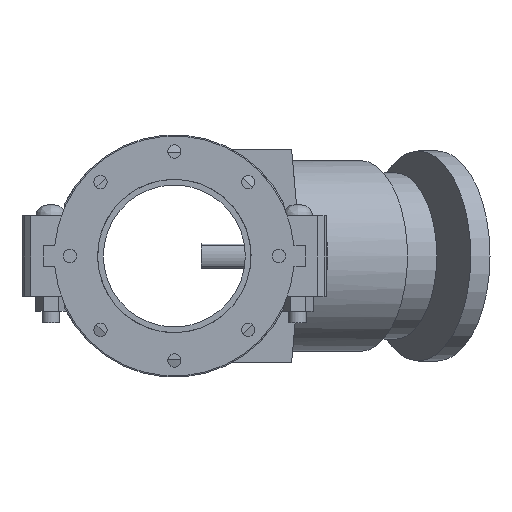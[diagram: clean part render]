
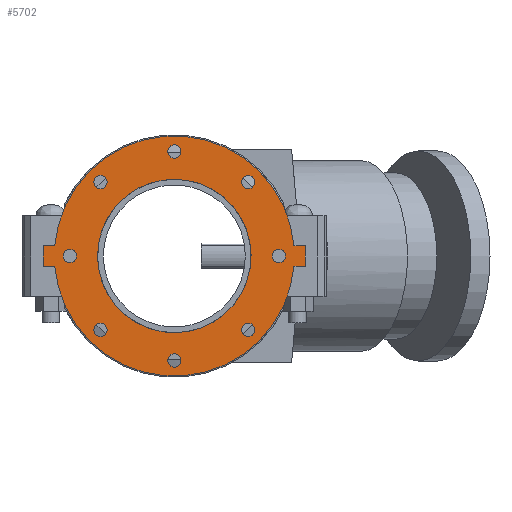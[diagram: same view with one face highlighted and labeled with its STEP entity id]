
A CAD part, front view. The second image highlights one B-rep face of the part: STEP entity #5702.
In plain terms, the highlighted planar face has unit normal (0, -1, 0) as drawn and (0, 0, 1) by its records, which use the part's own axes.
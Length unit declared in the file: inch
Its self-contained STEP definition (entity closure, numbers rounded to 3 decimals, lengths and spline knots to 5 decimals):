
#154=FACE_BOUND('',#757,.T.);
#155=FACE_BOUND('',#758,.T.);
#156=FACE_BOUND('',#759,.T.);
#157=FACE_BOUND('',#760,.T.);
#158=FACE_BOUND('',#761,.T.);
#159=FACE_BOUND('',#762,.T.);
#160=FACE_BOUND('',#763,.T.);
#161=FACE_BOUND('',#764,.T.);
#162=FACE_BOUND('',#765,.T.);
#232=PLANE('',#6251);
#431=FACE_OUTER_BOUND('',#756,.T.);
#756=EDGE_LOOP('',(#3737,#3738,#3739,#3740,#3741,#3742,#3743,#3744));
#757=EDGE_LOOP('',(#3745));
#758=EDGE_LOOP('',(#3746));
#759=EDGE_LOOP('',(#3747));
#760=EDGE_LOOP('',(#3748));
#761=EDGE_LOOP('',(#3749));
#762=EDGE_LOOP('',(#3750));
#763=EDGE_LOOP('',(#3751));
#764=EDGE_LOOP('',(#3752));
#765=EDGE_LOOP('',(#3753,#3754));
#1145=LINE('',#8778,#1560);
#1146=LINE('',#8781,#1561);
#1149=LINE('',#8786,#1564);
#1150=LINE('',#8789,#1565);
#1152=LINE('',#8792,#1567);
#1153=LINE('',#8794,#1568);
#1560=VECTOR('',#6993,0.3937);
#1561=VECTOR('',#6996,0.3937);
#1564=VECTOR('',#7001,0.3937);
#1565=VECTOR('',#7004,0.3937);
#1567=VECTOR('',#7008,0.3937);
#1568=VECTOR('',#7011,0.3937);
#1955=CIRCLE('',#6210,0.375);
#1957=CIRCLE('',#6213,0.375);
#1959=CIRCLE('',#6216,0.375);
#1961=CIRCLE('',#6219,0.375);
#1963=CIRCLE('',#6222,0.375);
#1965=CIRCLE('',#6225,0.375);
#1967=CIRCLE('',#6228,0.375);
#1969=CIRCLE('',#6231,0.375);
#1975=CIRCLE('',#6239,6.75);
#1976=CIRCLE('',#6241,4.3125);
#1977=CIRCLE('',#6242,4.3125);
#1978=CIRCLE('',#6244,6.75);
#2295=VERTEX_POINT('',#8689);
#2297=VERTEX_POINT('',#8695);
#2299=VERTEX_POINT('',#8701);
#2301=VERTEX_POINT('',#8707);
#2303=VERTEX_POINT('',#8713);
#2305=VERTEX_POINT('',#8719);
#2307=VERTEX_POINT('',#8725);
#2309=VERTEX_POINT('',#8731);
#2321=VERTEX_POINT('',#8758);
#2322=VERTEX_POINT('',#8760);
#2323=VERTEX_POINT('',#8764);
#2324=VERTEX_POINT('',#8766);
#2325=VERTEX_POINT('',#8770);
#2326=VERTEX_POINT('',#8772);
#2327=VERTEX_POINT('',#8776);
#2328=VERTEX_POINT('',#8780);
#2329=VERTEX_POINT('',#8784);
#2330=VERTEX_POINT('',#8788);
#2847=EDGE_CURVE('',#2295,#2295,#1955,.T.);
#2850=EDGE_CURVE('',#2297,#2297,#1957,.T.);
#2853=EDGE_CURVE('',#2299,#2299,#1959,.T.);
#2856=EDGE_CURVE('',#2301,#2301,#1961,.T.);
#2859=EDGE_CURVE('',#2303,#2303,#1963,.T.);
#2862=EDGE_CURVE('',#2305,#2305,#1965,.T.);
#2865=EDGE_CURVE('',#2307,#2307,#1967,.T.);
#2868=EDGE_CURVE('',#2309,#2309,#1969,.T.);
#2883=EDGE_CURVE('',#2321,#2322,#1975,.T.);
#2885=EDGE_CURVE('',#2324,#2323,#1976,.T.);
#2886=EDGE_CURVE('',#2323,#2324,#1977,.T.);
#2888=EDGE_CURVE('',#2326,#2325,#1978,.T.);
#2891=EDGE_CURVE('',#2322,#2327,#1145,.T.);
#2892=EDGE_CURVE('',#2328,#2326,#1146,.T.);
#2895=EDGE_CURVE('',#2325,#2329,#1149,.T.);
#2896=EDGE_CURVE('',#2330,#2321,#1150,.T.);
#2898=EDGE_CURVE('',#2329,#2330,#1152,.T.);
#2899=EDGE_CURVE('',#2327,#2328,#1153,.T.);
#3737=ORIENTED_EDGE('',*,*,#2895,.T.);
#3738=ORIENTED_EDGE('',*,*,#2898,.T.);
#3739=ORIENTED_EDGE('',*,*,#2896,.T.);
#3740=ORIENTED_EDGE('',*,*,#2883,.T.);
#3741=ORIENTED_EDGE('',*,*,#2891,.T.);
#3742=ORIENTED_EDGE('',*,*,#2899,.T.);
#3743=ORIENTED_EDGE('',*,*,#2892,.T.);
#3744=ORIENTED_EDGE('',*,*,#2888,.T.);
#3745=ORIENTED_EDGE('',*,*,#2847,.T.);
#3746=ORIENTED_EDGE('',*,*,#2850,.T.);
#3747=ORIENTED_EDGE('',*,*,#2853,.T.);
#3748=ORIENTED_EDGE('',*,*,#2856,.T.);
#3749=ORIENTED_EDGE('',*,*,#2859,.T.);
#3750=ORIENTED_EDGE('',*,*,#2862,.T.);
#3751=ORIENTED_EDGE('',*,*,#2865,.T.);
#3752=ORIENTED_EDGE('',*,*,#2868,.T.);
#3753=ORIENTED_EDGE('',*,*,#2885,.T.);
#3754=ORIENTED_EDGE('',*,*,#2886,.T.);
#5702=ADVANCED_FACE('',(#431,#154,#155,#156,#157,#158,#159,#160,#161,#162),
#232,.T.);
#6210=AXIS2_PLACEMENT_3D('',#8690,#6901,#6902);
#6213=AXIS2_PLACEMENT_3D('',#8696,#6908,#6909);
#6216=AXIS2_PLACEMENT_3D('',#8702,#6915,#6916);
#6219=AXIS2_PLACEMENT_3D('',#8708,#6922,#6923);
#6222=AXIS2_PLACEMENT_3D('',#8714,#6929,#6930);
#6225=AXIS2_PLACEMENT_3D('',#8720,#6936,#6937);
#6228=AXIS2_PLACEMENT_3D('',#8726,#6943,#6944);
#6231=AXIS2_PLACEMENT_3D('',#8732,#6950,#6951);
#6239=AXIS2_PLACEMENT_3D('',#8762,#6975,#6976);
#6241=AXIS2_PLACEMENT_3D('',#8767,#6980,#6981);
#6242=AXIS2_PLACEMENT_3D('',#8768,#6982,#6983);
#6244=AXIS2_PLACEMENT_3D('',#8773,#6987,#6988);
#6251=AXIS2_PLACEMENT_3D('',#8795,#7012,#7013);
#6901=DIRECTION('center_axis',(0.,0.,-1.));
#6902=DIRECTION('ref_axis',(-0.707,0.707,0.));
#6908=DIRECTION('center_axis',(0.,0.,-1.));
#6909=DIRECTION('ref_axis',(0.,1.,0.));
#6915=DIRECTION('center_axis',(0.,0.,-1.));
#6916=DIRECTION('ref_axis',(0.707,0.707,0.));
#6922=DIRECTION('center_axis',(0.,0.,-1.));
#6923=DIRECTION('ref_axis',(1.,0.,0.));
#6929=DIRECTION('center_axis',(0.,0.,-1.));
#6930=DIRECTION('ref_axis',(0.707,-0.707,0.));
#6936=DIRECTION('center_axis',(0.,0.,-1.));
#6937=DIRECTION('ref_axis',(0.,-1.,0.));
#6943=DIRECTION('center_axis',(0.,0.,-1.));
#6944=DIRECTION('ref_axis',(-0.707,-0.707,0.));
#6950=DIRECTION('center_axis',(0.,0.,-1.));
#6951=DIRECTION('ref_axis',(-1.,0.,0.));
#6975=DIRECTION('center_axis',(0.,0.,1.));
#6976=DIRECTION('ref_axis',(-1.,0.,0.));
#6980=DIRECTION('center_axis',(0.,0.,-1.));
#6981=DIRECTION('ref_axis',(-1.,0.,0.));
#6982=DIRECTION('center_axis',(0.,0.,-1.));
#6983=DIRECTION('ref_axis',(-1.,0.,0.));
#6987=DIRECTION('center_axis',(0.,0.,1.));
#6988=DIRECTION('ref_axis',(-1.,0.,0.));
#6993=DIRECTION('',(0.,1.,0.));
#6996=DIRECTION('',(0.,-1.,0.));
#7001=DIRECTION('',(0.,-1.,0.));
#7004=DIRECTION('',(0.,1.,0.));
#7008=DIRECTION('',(1.,0.,0.));
#7011=DIRECTION('',(-1.,0.,0.));
#7012=DIRECTION('center_axis',(0.,0.,1.));
#7013=DIRECTION('ref_axis',(1.,0.,0.));
#8689=CARTESIAN_POINT('',(-3.88909,3.88909,0.565));
#8690=CARTESIAN_POINT('Origin',(-4.15425,4.15425,0.565));
#8695=CARTESIAN_POINT('',(0.,5.5,0.565));
#8696=CARTESIAN_POINT('Origin',(0.,5.875,0.565));
#8701=CARTESIAN_POINT('',(3.88909,3.88909,0.565));
#8702=CARTESIAN_POINT('Origin',(4.15425,4.15425,0.565));
#8707=CARTESIAN_POINT('',(5.5,0.,0.565));
#8708=CARTESIAN_POINT('Origin',(5.875,0.,0.565));
#8713=CARTESIAN_POINT('',(3.88909,-3.88909,0.565));
#8714=CARTESIAN_POINT('Origin',(4.15425,-4.15425,0.565));
#8719=CARTESIAN_POINT('',(0.,-5.5,0.565));
#8720=CARTESIAN_POINT('Origin',(0.,-5.875,0.565));
#8725=CARTESIAN_POINT('',(-3.88909,-3.88909,0.565));
#8726=CARTESIAN_POINT('Origin',(-4.15425,-4.15425,0.565));
#8731=CARTESIAN_POINT('',(-5.5,0.,0.565));
#8732=CARTESIAN_POINT('Origin',(-5.875,0.,0.565));
#8758=CARTESIAN_POINT('',(0.565,-6.72631,0.565));
#8760=CARTESIAN_POINT('',(0.565,6.72631,0.565));
#8762=CARTESIAN_POINT('Origin',(0.,0.,0.565));
#8764=CARTESIAN_POINT('',(4.3125,0.,0.565));
#8766=CARTESIAN_POINT('',(0.565,4.27533,0.565));
#8767=CARTESIAN_POINT('Origin',(0.,0.,0.565));
#8768=CARTESIAN_POINT('Origin',(0.,0.,0.565));
#8770=CARTESIAN_POINT('',(-0.565,-6.72631,0.565));
#8772=CARTESIAN_POINT('',(-0.565,6.72631,0.565));
#8773=CARTESIAN_POINT('Origin',(0.,0.,0.565));
#8776=CARTESIAN_POINT('',(0.565,7.375,0.565));
#8778=CARTESIAN_POINT('',(0.565,7.375,0.565));
#8780=CARTESIAN_POINT('',(-0.565,7.375,0.565));
#8781=CARTESIAN_POINT('',(-0.565,-7.375,0.565));
#8784=CARTESIAN_POINT('',(-0.565,-7.375,0.565));
#8786=CARTESIAN_POINT('',(-0.565,-7.375,0.565));
#8788=CARTESIAN_POINT('',(0.565,-7.375,0.565));
#8789=CARTESIAN_POINT('',(0.565,7.375,0.565));
#8792=CARTESIAN_POINT('',(0.565,-7.375,0.565));
#8794=CARTESIAN_POINT('',(-0.565,7.375,0.565));
#8795=CARTESIAN_POINT('Origin',(0.,0.,0.565));
